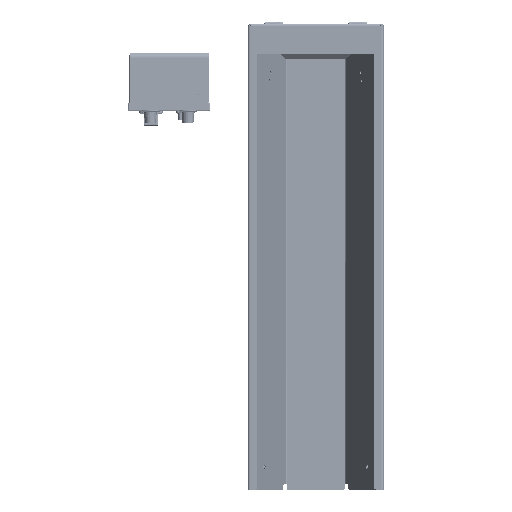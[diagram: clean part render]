
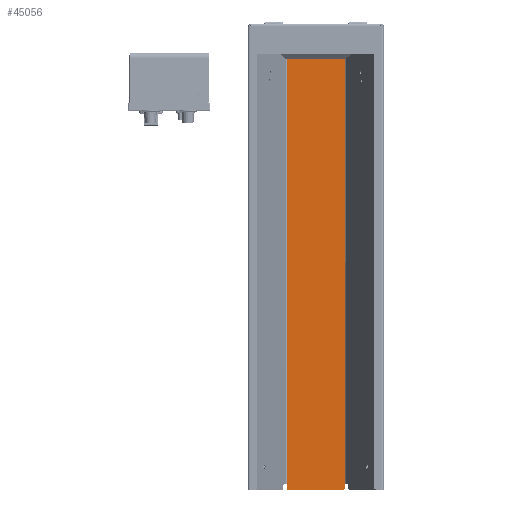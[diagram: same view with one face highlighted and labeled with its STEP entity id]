
A CAD part, top view. The second image highlights one B-rep face of the part: STEP entity #45056.
In plain terms, the highlighted planar face has unit normal (0, 0, 1).
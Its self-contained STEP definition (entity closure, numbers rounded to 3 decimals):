
#1651 = EDGE_CURVE ( 'NONE', #119688, #40107, #12105, .T. ) ;
#2566 = CARTESIAN_POINT ( 'NONE',  ( 47.019, 350., 0. ) ) ;
#6849 = AXIS2_PLACEMENT_3D ( 'NONE', #58347, #58969, #31636 ) ;
#7769 = ORIENTED_EDGE ( 'NONE', *, *, #120829, .T. ) ;
#10323 = VERTEX_POINT ( 'NONE', #83234 ) ;
#11000 = CARTESIAN_POINT ( 'NONE',  ( -47.019, 340., 0. ) ) ;
#12000 = VECTOR ( 'NONE', #50835, 1000. ) ;
#12105 = LINE ( 'NONE', #2566, #12000 ) ;
#12329 = CIRCLE ( 'NONE', #44765, 3. ) ;
#13802 = CIRCLE ( 'NONE', #80831, 3. ) ;
#16565 = DIRECTION ( 'NONE',  ( 0., 1., 0. ) ) ;
#21231 = LINE ( 'NONE', #86724, #118631 ) ;
#22973 = VECTOR ( 'NONE', #90607, 1000. ) ;
#27423 = CARTESIAN_POINT ( 'NONE',  ( -47.019, 340., 0. ) ) ;
#31636 = DIRECTION ( 'NONE',  ( 1., 0., 0. ) ) ;
#33283 = VERTEX_POINT ( 'NONE', #27423 ) ;
#34214 = EDGE_CURVE ( 'NONE', #33283, #98526, #90392, .T. ) ;
#35635 = CARTESIAN_POINT ( 'NONE',  ( 47.019, 340., 0. ) ) ;
#35882 = VERTEX_POINT ( 'NONE', #42973 ) ;
#36239 = DIRECTION ( 'NONE',  ( 1., 0., 0. ) ) ;
#40107 = VERTEX_POINT ( 'NONE', #67390 ) ;
#40833 = DIRECTION ( 'NONE',  ( 0., 1., 0. ) ) ;
#42554 = VECTOR ( 'NONE', #16565, 1000. ) ;
#42779 = ORIENTED_EDGE ( 'NONE', *, *, #34214, .F. ) ;
#42973 = CARTESIAN_POINT ( 'NONE',  ( -47.019, -350., 0. ) ) ;
#43140 = EDGE_CURVE ( 'NONE', #105919, #10323, #12329, .T. ) ;
#43341 = DIRECTION ( 'NONE',  ( -1., 0., 0. ) ) ;
#44765 = AXIS2_PLACEMENT_3D ( 'NONE', #75299, #75925, #54973 ) ;
#45056 = ADVANCED_FACE ( 'NONE', ( #68490 ), #86950, .T. ) ;
#46060 = ORIENTED_EDGE ( 'NONE', *, *, #43140, .T. ) ;
#50835 = DIRECTION ( 'NONE',  ( 0., -1., 0. ) ) ;
#53997 = ORIENTED_EDGE ( 'NONE', *, *, #118361, .T. ) ;
#54973 = DIRECTION ( 'NONE',  ( 1., 0., 0. ) ) ;
#55427 = VECTOR ( 'NONE', #40833, 1000. ) ;
#56024 = ORIENTED_EDGE ( 'NONE', *, *, #66268, .T. ) ;
#56863 = EDGE_CURVE ( 'NONE', #119688, #105919, #95968, .T. ) ;
#58347 = CARTESIAN_POINT ( 'NONE',  ( 0., 0., 0. ) ) ;
#58969 = DIRECTION ( 'NONE',  ( 0., 0., 1. ) ) ;
#59995 = DIRECTION ( 'NONE',  ( 0., 1., 0. ) ) ;
#61006 = EDGE_LOOP ( 'NONE', ( #53997, #56024, #42779, #72399, #7769, #107580, #98654, #46060 ) ) ;
#66268 = EDGE_CURVE ( 'NONE', #85643, #98526, #13802, .T. ) ;
#67390 = CARTESIAN_POINT ( 'NONE',  ( 47.019, -350., 0. ) ) ;
#68490 = FACE_OUTER_BOUND ( 'NONE', #61006, .T. ) ;
#72365 = CARTESIAN_POINT ( 'NONE',  ( -47.019, 347., 0. ) ) ;
#72399 = ORIENTED_EDGE ( 'NONE', *, *, #78727, .F. ) ;
#74388 = DIRECTION ( 'NONE',  ( 0., 0., 1. ) ) ;
#75299 = CARTESIAN_POINT ( 'NONE',  ( 44.019, 347., 0. ) ) ;
#75925 = DIRECTION ( 'NONE',  ( 0., 0., 1. ) ) ;
#78727 = EDGE_CURVE ( 'NONE', #35882, #33283, #21231, .T. ) ;
#80831 = AXIS2_PLACEMENT_3D ( 'NONE', #122053, #74388, #36239 ) ;
#83234 = CARTESIAN_POINT ( 'NONE',  ( 44.019, 350., 0. ) ) ;
#83697 = CARTESIAN_POINT ( 'NONE',  ( -44.019, 350., 0. ) ) ;
#85643 = VERTEX_POINT ( 'NONE', #83697 ) ;
#86724 = CARTESIAN_POINT ( 'NONE',  ( -47.019, -350.482, 0. ) ) ;
#86950 = PLANE ( 'NONE',  #6849 ) ;
#90392 = LINE ( 'NONE', #11000, #55427 ) ;
#90607 = DIRECTION ( 'NONE',  ( 1., 0., 0. ) ) ;
#95968 = LINE ( 'NONE', #35635, #42554 ) ;
#98526 = VERTEX_POINT ( 'NONE', #72365 ) ;
#98654 = ORIENTED_EDGE ( 'NONE', *, *, #56863, .T. ) ;
#103069 = CARTESIAN_POINT ( 'NONE',  ( -50.5, 350., 0. ) ) ;
#105919 = VERTEX_POINT ( 'NONE', #125311 ) ;
#105936 = VECTOR ( 'NONE', #43341, 1000. ) ;
#107580 = ORIENTED_EDGE ( 'NONE', *, *, #1651, .F. ) ;
#107791 = LINE ( 'NONE', #119192, #22973 ) ;
#112760 = CARTESIAN_POINT ( 'NONE',  ( 47.019, 340., 0. ) ) ;
#118361 = EDGE_CURVE ( 'NONE', #10323, #85643, #122110, .T. ) ;
#118631 = VECTOR ( 'NONE', #59995, 1000. ) ;
#119192 = CARTESIAN_POINT ( 'NONE',  ( -50.5, -350., 0. ) ) ;
#119688 = VERTEX_POINT ( 'NONE', #112760 ) ;
#120829 = EDGE_CURVE ( 'NONE', #35882, #40107, #107791, .T. ) ;
#122053 = CARTESIAN_POINT ( 'NONE',  ( -44.019, 347., 0. ) ) ;
#122110 = LINE ( 'NONE', #103069, #105936 ) ;
#125311 = CARTESIAN_POINT ( 'NONE',  ( 47.019, 347., 0. ) ) ;
